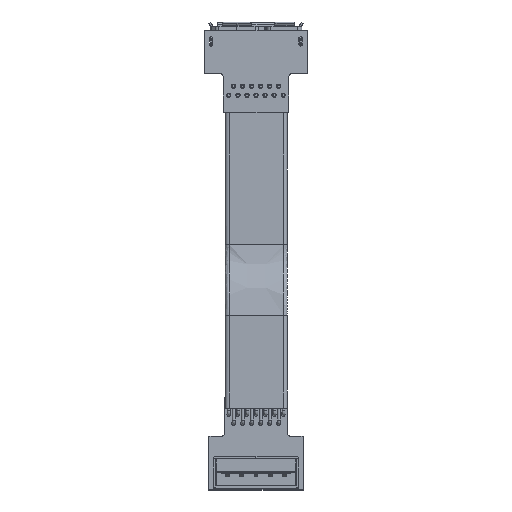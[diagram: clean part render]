
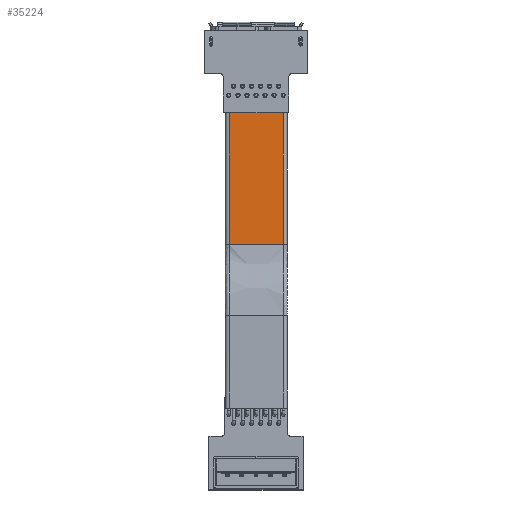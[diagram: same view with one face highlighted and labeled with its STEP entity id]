
A CAD part, top view. The second image highlights one B-rep face of the part: STEP entity #35224.
In plain terms, the highlighted free-form (B-spline) face has degree [3, 1] with [7, 2] control points.
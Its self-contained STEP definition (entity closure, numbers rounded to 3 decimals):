
#33560 = VERTEX_POINT('',#33561);
#33561 = CARTESIAN_POINT('',(0.569,22.977,
    -1.457));
#33643 = VERTEX_POINT('',#33644);
#33644 = CARTESIAN_POINT('',(8.189,22.977,
    -1.457));
#33656 = EDGE_CURVE('',#33560,#33643,#33657,.T.);
#33657 = LINE('',#33658,#33659);
#33658 = CARTESIAN_POINT('',(4.379,22.977,
    -1.457));
#33659 = VECTOR('',#33660,1.);
#33660 = DIRECTION('',(1.,0.,0.));
#35108 = VERTEX_POINT('',#35109);
#35109 = CARTESIAN_POINT('',(0.569,43.,-1.457));
#35116 = EDGE_CURVE('',#35108,#35117,#35119,.T.);
#35117 = VERTEX_POINT('',#35118);
#35118 = CARTESIAN_POINT('',(8.189,43.,-1.457));
#35119 = ( BOUNDED_CURVE() B_SPLINE_CURVE(3,(#35120,#35121,#35122,#35123
    ,#35124,#35125,#35126),.UNSPECIFIED.,.F.,.F.) 
B_SPLINE_CURVE_WITH_KNOTS((4,3,4),(0.505,0.943,1.),
.UNSPECIFIED.) CURVE() GEOMETRIC_REPRESENTATION_ITEM() 
RATIONAL_B_SPLINE_CURVE((1.,1.,1.,1.,0.333,0.333,1.)) 
REPRESENTATION_ITEM('') );
#35120 = CARTESIAN_POINT('',(0.569,43.,-1.457));
#35121 = CARTESIAN_POINT('',(3.109,43.,-1.457));
#35122 = CARTESIAN_POINT('',(5.649,43.,-1.457));
#35123 = CARTESIAN_POINT('',(8.189,43.,-1.457));
#35124 = CARTESIAN_POINT('',(9.189,43.,-1.457));
#35125 = CARTESIAN_POINT('',(9.189,43.,-2.457));
#35126 = CARTESIAN_POINT('',(8.189,43.,-2.457));
#35155 = EDGE_CURVE('',#33560,#35108,#35156,.T.);
#35156 = LINE('',#35157,#35158);
#35157 = CARTESIAN_POINT('',(0.569,32.989,
    -1.457));
#35158 = VECTOR('',#35159,1.);
#35159 = DIRECTION('',(0.,1.,0.));
#35201 = EDGE_CURVE('',#33643,#35117,#35202,.T.);
#35202 = LINE('',#35203,#35204);
#35203 = CARTESIAN_POINT('',(8.189,32.989,
    -1.457));
#35204 = VECTOR('',#35205,1.);
#35205 = DIRECTION('',(0.,1.,0.));
#35224 = ADVANCED_FACE('',(#35225),#35231,.T.);
#35225 = FACE_BOUND('',#35226,.T.);
#35226 = EDGE_LOOP('',(#35227,#35228,#35229,#35230));
#35227 = ORIENTED_EDGE('',*,*,#33656,.T.);
#35228 = ORIENTED_EDGE('',*,*,#35201,.T.);
#35229 = ORIENTED_EDGE('',*,*,#35116,.F.);
#35230 = ORIENTED_EDGE('',*,*,#35155,.F.);
#35231 = ( BOUNDED_SURFACE() B_SPLINE_SURFACE(3,1,(
    (#35232,#35233)
    ,(#35234,#35235)
    ,(#35236,#35237)
    ,(#35238,#35239)
    ,(#35240,#35241)
    ,(#35242,#35243)
    ,(#35244,#35245
)),.UNSPECIFIED.,.F.,.F.,.F.) B_SPLINE_SURFACE_WITH_KNOTS((4,3,4),(2,2),
  (0.505,0.943,1.),(0.,1.),.UNSPECIFIED.) 
GEOMETRIC_REPRESENTATION_ITEM() RATIONAL_B_SPLINE_SURFACE((
    (1.,1.)
    ,(1.,1.)
    ,(1.,1.)
    ,(1.,1.)
    ,(0.333,0.333)
    ,(0.333,0.333)
,(1.,1.))) REPRESENTATION_ITEM('') SURFACE() );
#35232 = CARTESIAN_POINT('',(0.569,22.977,
    -1.457));
#35233 = CARTESIAN_POINT('',(0.569,43.,-1.457));
#35234 = CARTESIAN_POINT('',(3.109,22.977,
    -1.457));
#35235 = CARTESIAN_POINT('',(3.109,43.,-1.457));
#35236 = CARTESIAN_POINT('',(5.649,22.977,
    -1.457));
#35237 = CARTESIAN_POINT('',(5.649,43.,-1.457));
#35238 = CARTESIAN_POINT('',(8.189,22.977,
    -1.457));
#35239 = CARTESIAN_POINT('',(8.189,43.,-1.457));
#35240 = CARTESIAN_POINT('',(9.189,22.977,
    -1.457));
#35241 = CARTESIAN_POINT('',(9.189,43.,-1.457));
#35242 = CARTESIAN_POINT('',(9.189,23.023,
    -2.457));
#35243 = CARTESIAN_POINT('',(9.189,43.,-2.457));
#35244 = CARTESIAN_POINT('',(8.189,23.023,
    -2.457));
#35245 = CARTESIAN_POINT('',(8.189,43.,-2.457));
